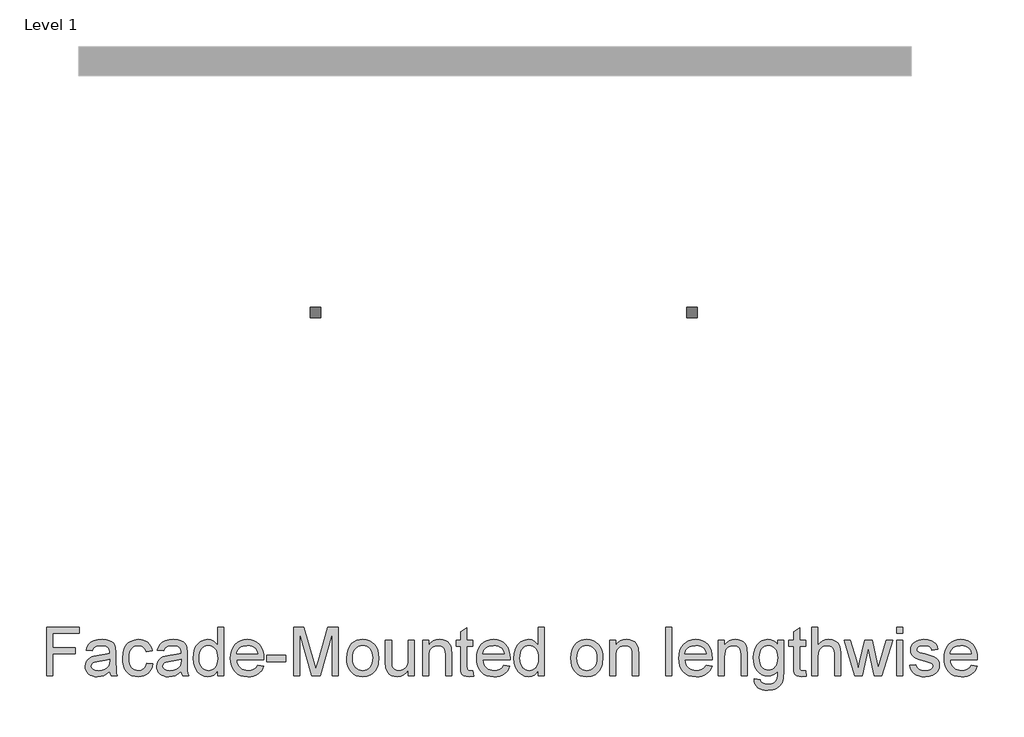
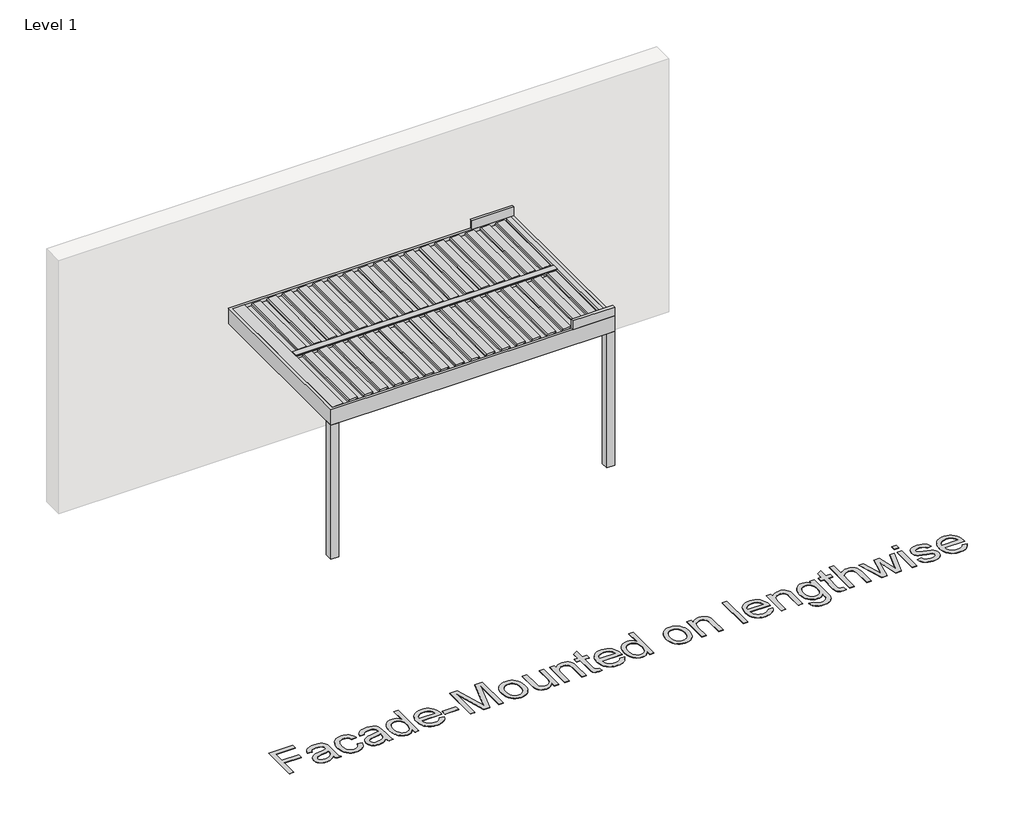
# One storey, part 29 of 47: 2 proxies.
"""IFC4 building model written with IfcOpenShell, lengths in millimetres."""

from ifc_helpers import new_model, si_unit, origin, origin_with_axes, place, context, project, spatial, polyline, outline, extrude, transform, mapped, element, save
from components import generic_models_9d3f019d

model = new_model("IFC4")

# Units and contexts
model_context = context("Model", 3, world=origin())
ifc_project = project(units=[si_unit("LENGTHUNIT", "METRE", prefix="MILLI")], contexts=[model_context])

# Site, building, storey
site = spatial("IfcSite", under=ifc_project)
building = spatial("IfcBuilding", under=site)
storey = spatial("IfcBuildingStorey", under=building, Name="Level 1", Elevation=0.0)

# Proxies
placement = place(None, origin())
generic_models_shape = generic_models_9d3f019d(model_context)
element("IfcBuildingElementProxy", 1, Name="Renson_Algarve_Single Unit With Intermediate Beam : Algarve - Single Unit With Intermediate Beam", ObjectType="Renson_Algarve_Single Unit With Intermediate Beam : Algarve - Single Unit With Intermediate Beam", at=placement, inside=storey, context=model_context, shape_type="MappedRepresentation", body=[
    mapped(generic_models_shape, transform((76532.7944478, 41397.1593685, 0.0), x_axis=(1.0, 0.0, 0.0), y_axis=(0.0, 1.0, 0.0), z_axis=(0.0, 0.0, 1.0))),
])
element("IfcBuildingElementProxy", 2, Name="500mm Arial", ObjectType="500mm Arial", at=placement, inside=storey, context=model_context, shape_type="SweptSolid", body=[
    extrude(outline(polyline([(71810.8195121, 35822.1593685), (71810.8195121, 36324.4409192), (72148.289929, 36324.4409192), (72148.289929, 36261.6557254), (71873.6047059, 36261.6557254), (71873.6047059, 36112.54089), (72109.0491828, 36112.54089), (72109.0491828, 36049.7556962), (71873.6047059, 36049.7556962), (71873.6047059, 35822.1593685), (71810.8195121, 35822.1593685)])), origin_with_axes(), (0.0, 0.0, 1.0), 5.0),
    extrude(outline(polyline([(72462.2158982, 35869.2482639), (72432.2181872, 35843.527181), (72401.331428, 35826.6965797), (72368.8505135, 35817.4075594), (72334.0703366, 35814.3112192), (72306.115137, 35816.1736218), (72281.601167, 35821.7608296), (72260.5284265, 35831.0728426), (72242.8969154, 35844.1096608), (72228.9748812, 35860.0435498), (72219.030571, 35878.0467749), (72213.0639849, 35898.1193363), (72211.0751228, 35920.2612338), (72214.0794925, 35946.288885), (72223.0926014, 35969.9253032), (72236.9954751, 35990.1588129), (72254.6691393, 36005.9777387), (72275.4391436, 36017.9339036), (72298.6310377, 36026.5791305), (72352.9549456, 36036.021435), (72417.1503538, 36045.9542489), (72461.8480162, 36057.6038454), (72462.2158982, 36071.5833612), (72457.8932848, 36099.6037065), (72444.9254444, 36117.9364926), (72431.8503052, 36125.8766123), (72415.9240805, 36131.5481264), (72375.5183747, 36136.0853377), (72338.1170385, 36133.0656396), (72311.9974169, 36124.0065455), (72294.1857969, 36107.2525863), (72281.7084659, 36081.1482931), (72218.9232721, 36088.9964423), (72229.8217762, 36123.3320952), (72246.085226, 36150.3101082), (72269.2311349, 36170.9421567), (72300.777016, 36186.2399164), (72339.3586402, 36195.7128777), (72383.6117786, 36198.8705315), (72426.0561638, 36196.0807597), (72459.7020379, 36187.7114443), (72485.0705672, 36175.1268144), (72502.6829177, 36159.691099), (72514.363171, 36140.6072205), (72521.9354088, 36117.0781013), (72525.0010921, 36062.1410567), (72525.0010921, 35984.0274463), (72528.1894027, 35874.9504348), (72532.910555, 35847.9877502), (72540.6973905, 35822.1593685), (72477.9121967, 35822.1593685), (72467.8567555, 35843.9870335), (72462.2158982, 35869.2482639)]), holes=[polyline([(72462.2158982, 35994.8186515), (72420.0320961, 35984.3646715), (72360.9257222, 35975.5661605), (72306.9083826, 35965.3880919), (72292.8522247, 35958.4289908), (72282.4442299, 35948.8334021), (72276.006295, 35937.3370898), (72273.8603167, 35924.6758178), (72278.5354837, 35906.0058065), (72292.5609848, 35890.7080469), (72315.6302516, 35880.4993215), (72347.4367157, 35877.0964131), (72381.1592319, 35880.8518751), (72410.9576736, 35892.1182612), (72435.1152579, 35908.7189363), (72451.9152024, 35928.4772651), (72459.3648128, 35948.8334021), (72461.8480162, 35977.0376884), (72462.2158982, 35994.8186515)])]), origin_with_axes(), (0.0, 0.0, 1.0), 5.0),
    extrude(outline(polyline([(72846.7752105, 35955.5779054), (72909.5604044, 35947.7297562), (72902.7315948, 35918.1037592), (72892.0553527, 35891.888335), (72877.5316781, 35869.0834834), (72859.160571, 35849.6892044), (72837.7161164, 35834.2113359), (72813.9723993, 35823.1557155), (72787.9294197, 35816.5223433), (72759.5871777, 35814.3112192), (72724.3739729, 35817.3960631), (72692.8012671, 35826.6505945), (72664.8690602, 35842.0748136), (72640.5773522, 35863.6687203), (72620.914826, 35891.0261115), (72606.8701644, 35923.7407844), (72598.4433675, 35961.8127388), (72595.6344351, 36005.2419747), (72600.4322295, 36061.1140528), (72614.8256125, 36109.5365204), (72625.6781314, 36130.4866336), (72639.0445106, 36148.6393108), (72654.92475, 36163.994552), (72673.3188498, 36176.5523572), (72714.3223638, 36193.2909879), (72758.7287863, 36198.8705315), (72786.5843512, 36196.9544795), (72811.7804357, 36191.2063233), (72834.31704, 36181.626063), (72854.1941641, 36168.2136986), (72871.0745827, 36151.2757984), (72884.6210708, 36131.1189308), (72894.8336282, 36107.7430956), (72901.7122551, 36081.1482931), (72838.9270613, 36073.3001438), (72827.5380478, 36100.6920241), (72809.80307, 36120.3277256), (72786.7031464, 36132.1459347), (72759.2192957, 36136.0853377), (72737.885972, 36134.146293), (72718.6449773, 36128.329159), (72701.4963113, 36118.6339355), (72686.4399743, 36105.0606228), (72674.1810732, 36087.2949881), (72665.4247153, 36065.022799), (72660.1709006, 36038.2440554), (72658.419629, 36006.9587574), (72660.1325795, 35975.2021106), (72665.2714311, 35948.1129666), (72673.8361838, 35925.6913254), (72685.8268376, 35907.937187), (72700.5842706, 35894.4443484), (72717.4493608, 35884.8066066), (72736.4221083, 35879.0239615), (72757.502513, 35877.0964131), (72790.0140843, 35881.9095359), (72816.6702006, 35896.3489042), (72827.4499094, 35907.2704009), (72836.0606474, 35920.7824), (72846.7752105, 35955.5779054)])), origin_with_axes(), (0.0, 0.0, 1.0), 5.0),
    extrude(outline(polyline([(73199.9419259, 35869.2482639), (73169.9442149, 35843.527181), (73139.0574557, 35826.6965797), (73106.5765412, 35817.4075594), (73071.7963642, 35814.3112192), (73043.8411647, 35816.1736218), (73019.3271947, 35821.7608296), (72998.2544541, 35831.0728426), (72980.6229431, 35844.1096608), (72966.7009088, 35860.0435498), (72956.7565986, 35878.0467749), (72950.7900125, 35898.1193363), (72948.8011505, 35920.2612338), (72951.8055201, 35946.288885), (72960.818629, 35969.9253032), (72974.7215027, 35990.1588129), (72992.3951669, 36005.9777387), (73013.1651712, 36017.9339036), (73036.3570654, 36026.5791305), (73090.6809733, 36036.021435), (73154.8763815, 36045.9542489), (73199.5740439, 36057.6038454), (73199.9419259, 36071.5833612), (73195.6193124, 36099.6037065), (73182.6514721, 36117.9364926), (73169.5763329, 36125.8766123), (73153.6501082, 36131.5481264), (73113.2444023, 36136.0853377), (73075.8430662, 36133.0656396), (73049.7234445, 36124.0065455), (73031.9118246, 36107.2525863), (73019.4344936, 36081.1482931), (72956.6492997, 36088.9964423), (72967.5478038, 36123.3320952), (72983.8112537, 36150.3101082), (73006.9571626, 36170.9421567), (73038.5030437, 36186.2399164), (73077.0846679, 36195.7128777), (73121.3378062, 36198.8705315), (73163.7821914, 36196.0807597), (73197.4280656, 36187.7114443), (73222.7965948, 36175.1268144), (73240.4089453, 36159.691099), (73252.0891987, 36140.6072205), (73259.6614364, 36117.0781013), (73262.7271197, 36062.1410567), (73262.7271197, 35984.0274463), (73265.9154303, 35874.9504348), (73270.6365826, 35847.9877502), (73278.4234182, 35822.1593685), (73215.6382243, 35822.1593685), (73205.5827831, 35843.9870335), (73199.9419259, 35869.2482639)]), holes=[polyline([(73199.9419259, 35994.8186515), (73157.7581238, 35984.3646715), (73098.6517499, 35975.5661605), (73044.6344102, 35965.3880919), (73030.5782523, 35958.4289908), (73020.1702576, 35948.8334021), (73013.7323227, 35937.3370898), (73011.5863443, 35924.6758178), (73016.2615114, 35906.0058065), (73030.2870124, 35890.7080469), (73053.3562792, 35880.4993215), (73085.1627434, 35877.0964131), (73118.8852596, 35880.8518751), (73148.6837012, 35892.1182612), (73172.8412856, 35908.7189363), (73189.64123, 35928.4772651), (73197.0908404, 35948.8334021), (73199.5740439, 35977.0376884), (73199.9419259, 35994.8186515)])]), origin_with_axes(), (0.0, 0.0, 1.0), 5.0),
    extrude(outline(polyline([(73576.6530889, 35822.1593685), (73576.6530889, 35881.3883697), (73557.8681146, 35852.0421164), (73535.1130803, 35831.0805069), (73508.3879862, 35818.5035411), (73477.6928322, 35814.3112192), (73437.1031854, 35820.3812722), (73399.9471039, 35838.5914309), (73368.4931933, 35867.669437), (73345.0100593, 35906.3430317), (73330.38675, 35953.0487167), (73325.5123136, 36006.2229934), (73330.0035396, 36058.7381482), (73343.4772177, 36106.1642687), (73353.5786441, 36127.2944908), (73365.9180194, 36145.8035537), (73380.4953434, 36161.6914574), (73397.3106163, 36174.9582018), (73435.2791039, 36192.8924491), (73477.4475776, 36198.8705315), (73508.1657242, 36194.5939033), (73535.3276781, 36181.7640188), (73558.3509597, 36162.0976604), (73576.6530889, 36137.311611), (73576.6530889, 36324.4409192), (73639.4382828, 36324.4409192), (73639.4382828, 35822.1593685), (73576.6530889, 35822.1593685)]), holes=[polyline([(73388.2975074, 36006.4682481), (73390.0679395, 35976.0221808), (73395.3792358, 35949.676465), (73404.2313963, 35927.4311007), (73416.624421, 35909.2860877), (73431.4240071, 35895.203105), (73447.4958518, 35885.1438317), (73464.839955, 35879.1082677), (73483.4563168, 35877.0964131), (73502.160817, 35879.0162972), (73519.4014534, 35884.7759497), (73535.1782261, 35894.3753705), (73549.491135, 35907.8145597), (73561.3744898, 35925.2008161), (73569.8626004, 35946.6414386), (73574.9554668, 35972.1364273), (73576.6530889, 36001.6857821), (73574.92481, 36034.0823903), (73569.7399731, 36061.8651452), (73561.0985783, 36085.0340466), (73549.0006256, 36103.5890948), (73534.3734842, 36117.8062011), (73518.1445233, 36127.961277), (73500.3137428, 36134.0543225), (73480.8811429, 36136.0853377), (73461.8968991, 36134.1347967), (73444.5527958, 36128.2831737), (73428.8488332, 36118.5304687), (73414.7850111, 36104.8766818), (73403.1967282, 36087.0229087), (73394.9193833, 36064.6702454), (73389.9529764, 36037.8186918), (73388.2975074, 36006.4682481)])]), origin_with_axes(), (0.0, 0.0, 1.0), 5.0),
    extrude(outline(polyline([(73991.8692342, 35932.0334577), (74053.4281547, 35924.1853085), (74043.9896822, 35899.5295506), (74031.2479361, 35877.8015202), (74015.2029161, 35859.0012174), (73995.8546224, 35843.1286422), (73973.4023244, 35830.5210197), (73948.0452915, 35821.515575), (73919.7835236, 35816.1123082), (73888.6170208, 35814.3112192), (73849.6598504, 35817.4190557), (73814.9486513, 35826.742565), (73784.4834236, 35842.2817472), (73758.2641672, 35864.0366023), (73737.1799304, 35891.4016577), (73722.1197612, 35923.7714412), (73713.0836597, 35961.1459527), (73710.0716259, 36003.5251921), (73713.1143165, 36047.3414706), (73722.2423885, 36085.9614158), (73737.4558419, 36119.3850279), (73758.7546766, 36147.6123069), (73784.904955, 36170.0377802), (73814.6727398, 36186.0559754), (73848.0580309, 36195.6668925), (73885.0608282, 36198.8705315), (73920.8718412, 36195.6745567), (73953.2569531, 36186.0866322), (73982.2161639, 36170.106758), (74007.7494736, 36147.7349342), (74028.5922879, 36119.5689689), (74043.4800124, 36086.2066705), (74052.4126471, 36047.6480389), (74055.390192, 36003.8930741), (74055.02231, 35986.9705023), (73772.8568197, 35986.9705023), (73776.4934865, 35961.9162056), (73783.724667, 35939.9735774), (73794.5503611, 35921.1426178), (73808.9705689, 35905.4233267), (73826.1882127, 35893.030302), (73845.4062148, 35884.1781415), (73866.6245753, 35878.8668452), (73889.8432942, 35877.0964131), (73923.2592421, 35880.3766942), (73951.4022147, 35890.2175376), (73974.2722121, 35907.2320799), (73991.8692342, 35932.0334577)]), holes=[polyline([(73772.8568197, 36049.7556962), (73992.6049982, 36049.7556962), (73984.1130554, 36082.9263894), (73967.4663951, 36106.6547781), (73950.344554, 36119.5306479), (73930.8621366, 36128.7276978), (73909.0191432, 36134.2459277), (73884.8155736, 36136.0853377), (73842.4938157, 36130.2145542), (73824.0805554, 36122.8760748), (73807.4990409, 36112.6022037), (73793.5846709, 36099.8681217), (73783.172844, 36085.1490098), (73776.2635603, 36068.4448679), (73772.8568197, 36049.7556962)])]), origin_with_axes(), (0.0, 0.0, 1.0), 5.0),
    extrude(outline(polyline([(74086.7827889, 35971.2742038), (74086.7827889, 36034.0593977), (74282.9865197, 36034.0593977), (74282.9865197, 35971.2742038), (74086.7827889, 35971.2742038)])), origin_with_axes(), (0.0, 0.0, 1.0), 5.0),
    extrude(outline(polyline([(74361.468012, 35822.1593685), (74361.468012, 36324.4409192), (74469.5026912, 36324.4409192), (74572.2643952, 35970.4158125), (74592.9884143, 35896.4715315), (74615.429216, 35976.5471791), (74716.4741373, 36324.4409192), (74824.5088166, 36324.4409192), (74824.5088166, 35822.1593685), (74761.7236227, 35822.1593685), (74761.7236227, 36261.6557254), (74635.5400984, 35822.1593685), (74550.4367302, 35822.1593685), (74424.2532058, 36261.6557254), (74424.2532058, 35822.1593685), (74361.468012, 35822.1593685)])), origin_with_axes(), (0.0, 0.0, 1.0), 5.0),
    extrude(outline(polyline([(74910.8384581, 36006.5908754), (74914.2337024, 36054.3618853), (74924.4194351, 36095.5263477), (74941.3956563, 36130.0842626), (74965.1623661, 36158.0356301), (74989.0900242, 36175.9008995), (75015.5008857, 36188.6618062), (75044.3949508, 36196.3183502), (75075.7722193, 36198.8705315), (75110.4106084, 36195.7626951), (75141.7303953, 36186.4391858), (75169.7315801, 36170.9000036), (75194.4141627, 36149.1451485), (75214.5595341, 36121.9103846), (75228.949085, 36089.9314757), (75237.5828156, 36053.208422), (75240.4607258, 36011.7412233), (75235.3716915, 35948.312236), (75229.0103987, 35922.2769206), (75220.1045887, 35900.0277241), (75208.7653926, 35880.809722), (75195.1039415, 35863.8679897), (75179.1202352, 35849.2025272), (75160.8142738, 35836.8133346), (75120.0866713, 35819.9367481), (75075.7722193, 35814.3112192), (75040.6279924, 35817.4075594), (75009.0169656, 35826.6965797), (74980.9391387, 35842.1782804), (74956.3945118, 35863.8526613), (74936.4637383, 35891.3518404), (74922.2274715, 35924.3079358), (74913.6857115, 35962.7209475), (74910.8384581, 36006.5908754)]), holes=[polyline([(74973.623652, 36006.7135027), (74975.4400693, 35976.2597713), (74980.8893214, 35949.8910629), (74989.9714081, 35927.6073774), (75002.6863296, 35909.408715), (75018.1527018, 35895.2720829), (75035.4891408, 35885.1744886), (75054.6956466, 35879.115932), (75075.7722193, 35877.0964131), (75096.741493, 35879.1274283), (75115.8713568, 35885.2204738), (75133.1618105, 35895.3755497), (75148.6128543, 35909.592656), (75161.3277758, 35927.9714273), (75170.4098625, 35950.6114985), (75175.8591146, 35977.5128693), (75177.6755319, 36008.67554), (75175.8476183, 36038.1635812), (75170.3638773, 36063.8425109), (75161.224309, 36085.7123291), (75148.4289133, 36103.7730358), (75132.920388, 36117.9096679), (75115.6414305, 36128.0072622), (75096.5920409, 36134.0658188), (75075.7722193, 36136.0853377), (75054.6956466, 36134.073483), (75035.4891408, 36128.037919), (75018.1527018, 36117.9786457), (75002.6863296, 36103.8956631), (74989.9714081, 36085.7506501), (74980.8893214, 36063.5052857), (74975.4400693, 36037.1595699), (74973.623652, 36006.7135027)])]), origin_with_axes(), (0.0, 0.0, 1.0), 5.0),
    extrude(outline(polyline([(75546.5385458, 35822.1593685), (75546.5385458, 35885.557699), (75523.8218326, 35854.3873641), (75497.3649858, 35832.1228392), (75467.1680053, 35818.7641242), (75433.2308913, 35814.3112192), (75402.6507004, 35817.4382162), (75374.185831, 35826.8192071), (75350.3041582, 35840.9213502), (75333.4735569, 35858.211804), (75322.1458571, 35879.2117346), (75314.7728888, 35904.4423081), (75311.0940689, 35962.812918), (75311.0940689, 36191.0223823), (75373.8792627, 36191.0223823), (75373.8792627, 35992.3661049), (75377.68071, 35928.3546377), (75386.8317746, 35907.0021536), (75402.5127447, 35890.7693606), (75423.6812878, 35880.51465), (75449.2950717, 35877.0964131), (75476.3803836, 35880.591292), (75501.718256, 35891.0759289), (75522.6108877, 35907.5846334), (75536.3604772, 35929.1517154), (75543.9940286, 35958.6895739), (75546.5385458, 35999.1106081), (75546.5385458, 36191.0223823), (75609.3237396, 36191.0223823), (75609.3237396, 35822.1593685), (75546.5385458, 35822.1593685)])), origin_with_axes(), (0.0, 0.0, 1.0), 5.0),
    extrude(outline(polyline([(75695.6533812, 35822.1593685), (75695.6533812, 36191.0223823), (75758.438575, 36191.0223823), (75758.438575, 36139.518903), (75780.2509116, 36165.4852405), (75806.4471754, 36184.0326244), (75837.0273662, 36195.1610547), (75871.9914842, 36198.8705315), (75902.939557, 36195.8814903), (75931.2817991, 36186.9143667), (75954.9182173, 36173.088135), (75971.7488185, 36155.5217698), (75983.1684888, 36134.2612561), (75990.572114, 36109.3525794), (75993.8830519, 36048.6520502), (75993.8830519, 35822.1593685), (75931.0978581, 35822.1593685), (75931.0978581, 36040.1907643), (75929.2891049, 36072.6563504), (75923.8628455, 36095.7409455), (75913.8533895, 36112.2803069), (75898.2950468, 36125.1101915), (75878.352777, 36133.3415511), (75855.1915397, 36136.0853377), (75836.1268218, 36134.5448318), (75818.4186686, 36129.9233143), (75802.0670804, 36122.220785), (75787.072057, 36111.437244), (75774.5449086, 36096.346418), (75765.5969455, 36075.7220336), (75760.2281676, 36049.5640909), (75758.438575, 36017.8725899), (75758.438575, 35822.1593685), (75695.6533812, 35822.1593685)])), origin_with_axes(), (0.0, 0.0, 1.0), 5.0),
    extrude(outline(polyline([(76213.6312304, 35874.5212391), (76221.4793796, 35820.3199585), (76174.5131115, 35814.3112192), (76144.3774448, 35816.91705), (76121.9059862, 35824.7345424), (76106.0257468, 35836.7826778), (76095.6637372, 35852.0804374), (76089.9615663, 35878.3533432), (76088.0608427, 35923.3269171), (76088.0608427, 36128.2371885), (76040.9719473, 36128.2371885), (76040.9719473, 36191.0223823), (76088.0608427, 36191.0223823), (76088.0608427, 36280.6629618), (76150.8460365, 36317.5737886), (76150.8460365, 36191.0223823), (76213.6312304, 36191.0223823), (76213.6312304, 36128.2371885), (76150.8460365, 36128.2371885), (76150.8460365, 35925.1663271), (76154.1569745, 35892.7927115), (76164.886866, 35881.327056), (76186.2853354, 35877.0964131), (76213.6312304, 35874.5212391)])), origin_with_axes(), (0.0, 0.0, 1.0), 5.0),
    extrude(outline(polyline([(76534.6695848, 35932.0334577), (76596.2285053, 35924.1853085), (76586.7900329, 35899.5295506), (76574.0482867, 35877.8015202), (76558.0032668, 35859.0012174), (76538.6549731, 35843.1286422), (76516.2026751, 35830.5210197), (76490.8456421, 35821.515575), (76462.5838743, 35816.1123082), (76431.4173715, 35814.3112192), (76392.4602011, 35817.4190557), (76357.749002, 35826.742565), (76327.2837743, 35842.2817472), (76301.0645179, 35864.0366023), (76279.980281, 35891.4016577), (76264.9201119, 35923.7714412), (76255.8840104, 35961.1459527), (76252.8719765, 36003.5251921), (76255.9146672, 36047.3414706), (76265.0427392, 36085.9614158), (76280.2561925, 36119.3850279), (76301.5550272, 36147.6123069), (76327.7053057, 36170.0377802), (76357.4730905, 36186.0559754), (76390.8583815, 36195.6668925), (76427.8611789, 36198.8705315), (76463.6721919, 36195.6745567), (76496.0573037, 36186.0866322), (76525.0165146, 36170.106758), (76550.5498243, 36147.7349342), (76571.3926386, 36119.5689689), (76586.2803631, 36086.2066705), (76595.2129978, 36047.6480389), (76598.1905427, 36003.8930741), (76597.8226607, 35986.9705023), (76315.6571704, 35986.9705023), (76319.2938372, 35961.9162056), (76326.5250176, 35939.9735774), (76337.3507118, 35921.1426178), (76351.7709196, 35905.4233267), (76368.9885633, 35893.030302), (76388.2065655, 35884.1781415), (76409.424926, 35878.8668452), (76432.6436448, 35877.0964131), (76466.0595927, 35880.3766942), (76494.2025654, 35890.2175376), (76517.0725627, 35907.2320799), (76534.6695848, 35932.0334577)]), holes=[polyline([(76315.6571704, 36049.7556962), (76535.4053488, 36049.7556962), (76526.9134061, 36082.9263894), (76510.2667458, 36106.6547781), (76493.1449046, 36119.5306479), (76473.6624873, 36128.7276978), (76451.8194938, 36134.2459277), (76427.6159242, 36136.0853377), (76385.2941664, 36130.2145542), (76366.8809061, 36122.8760748), (76350.2993916, 36112.6022037), (76336.3850215, 36099.8681217), (76325.9731946, 36085.1490098), (76319.0639109, 36068.4448679), (76315.6571704, 36049.7556962)])]), origin_with_axes(), (0.0, 0.0, 1.0), 5.0),
    extrude(outline(polyline([(76888.5720642, 35822.1593685), (76888.5720642, 35881.3883697), (76869.7870898, 35852.0421164), (76847.0320556, 35831.0805069), (76820.3069615, 35818.5035411), (76789.6118075, 35814.3112192), (76749.0221607, 35820.3812722), (76711.8660792, 35838.5914309), (76680.4121686, 35867.669437), (76656.9290346, 35906.3430317), (76642.3057252, 35953.0487167), (76637.4312888, 36006.2229934), (76641.9225148, 36058.7381482), (76655.3961929, 36106.1642687), (76665.4976194, 36127.2944908), (76677.8369946, 36145.8035537), (76692.4143187, 36161.6914574), (76709.2295915, 36174.9582018), (76747.1980791, 36192.8924491), (76789.3665528, 36198.8705315), (76820.0846994, 36194.5939033), (76847.2466534, 36181.7640188), (76870.2699349, 36162.0976604), (76888.5720642, 36137.311611), (76888.5720642, 36324.4409192), (76951.357258, 36324.4409192), (76951.357258, 35822.1593685), (76888.5720642, 35822.1593685)]), holes=[polyline([(76700.2164827, 36006.4682481), (76701.9869148, 35976.0221808), (76707.2982111, 35949.676465), (76716.1503716, 35927.4311007), (76728.5433963, 35909.2860877), (76743.3429824, 35895.203105), (76759.414827, 35885.1438317), (76776.7589303, 35879.1082677), (76795.3752921, 35877.0964131), (76814.0797923, 35879.0162972), (76831.3204287, 35884.7759497), (76847.0972013, 35894.3753705), (76861.4101102, 35907.8145597), (76873.2934651, 35925.2008161), (76881.7815757, 35946.6414386), (76886.8744421, 35972.1364273), (76888.5720642, 36001.6857821), (76886.8437852, 36034.0823903), (76881.6589484, 36061.8651452), (76873.0175536, 36085.0340466), (76860.9196009, 36103.5890948), (76846.2924595, 36117.8062011), (76830.0634985, 36127.961277), (76812.2327181, 36134.0543225), (76792.8001181, 36136.0853377), (76773.8158743, 36134.1347967), (76756.4717711, 36128.2831737), (76740.7678084, 36118.5304687), (76726.7039863, 36104.8766818), (76715.1157035, 36087.0229087), (76706.8383586, 36064.6702454), (76701.8719516, 36037.8186918), (76700.2164827, 36006.4682481)])]), origin_with_axes(), (0.0, 0.0, 1.0), 5.0),
    extrude(outline(polyline([(77226.0424811, 36006.5908754), (77229.4377253, 36054.3618853), (77239.6234581, 36095.5263477), (77256.5996793, 36130.0842626), (77280.366389, 36158.0356301), (77304.2940471, 36175.9008995), (77330.7049087, 36188.6618062), (77359.5989738, 36196.3183502), (77390.9762423, 36198.8705315), (77425.6146314, 36195.7626951), (77456.9344183, 36186.4391858), (77484.9356031, 36170.9000036), (77509.6181857, 36149.1451485), (77529.763557, 36121.9103846), (77544.153108, 36089.9314757), (77552.7868386, 36053.208422), (77555.6647488, 36011.7412233), (77550.5757145, 35948.312236), (77544.2144217, 35922.2769206), (77535.3086117, 35900.0277241), (77523.9694156, 35880.809722), (77510.3079644, 35863.8679897), (77494.3242582, 35849.2025272), (77476.0182968, 35836.8133346), (77435.2906943, 35819.9367481), (77390.9762423, 35814.3112192), (77355.8320154, 35817.4075594), (77324.2209886, 35826.6965797), (77296.1431617, 35842.1782804), (77271.5985348, 35863.8526613), (77251.6677613, 35891.3518404), (77237.4314945, 35924.3079358), (77228.8897345, 35962.7209475), (77226.0424811, 36006.5908754)]), holes=[polyline([(77288.8276749, 36006.7135027), (77290.6440923, 35976.2597713), (77296.0933443, 35949.8910629), (77305.1754311, 35927.6073774), (77317.8903526, 35909.408715), (77333.3567248, 35895.2720829), (77350.6931638, 35885.1744886), (77369.8996696, 35879.115932), (77390.9762423, 35877.0964131), (77411.945516, 35879.1274283), (77431.0753797, 35885.2204738), (77448.3658335, 35895.3755497), (77463.8168773, 35909.592656), (77476.5317988, 35927.9714273), (77485.6138855, 35950.6114985), (77491.0631376, 35977.5128693), (77492.8795549, 36008.67554), (77491.0516413, 36038.1635812), (77485.5679003, 36063.8425109), (77476.428332, 36085.7123291), (77463.6329363, 36103.7730358), (77448.124411, 36117.9096679), (77430.8454535, 36128.0072622), (77411.7960639, 36134.0658188), (77390.9762423, 36136.0853377), (77369.8996696, 36134.073483), (77350.6931638, 36128.037919), (77333.3567248, 36117.9786457), (77317.8903526, 36103.8956631), (77305.1754311, 36085.7506501), (77296.0933443, 36063.5052857), (77290.6440923, 36037.1595699), (77288.8276749, 36006.7135027)])]), origin_with_axes(), (0.0, 0.0, 1.0), 5.0),
    extrude(outline(polyline([(77626.2980918, 35822.1593685), (77626.2980918, 36191.0223823), (77689.0832857, 36191.0223823), (77689.0832857, 36139.518903), (77710.8956223, 36165.4852405), (77737.0918861, 36184.0326244), (77767.6720769, 36195.1610547), (77802.6361949, 36198.8705315), (77833.5842677, 36195.8814903), (77861.9265098, 36186.9143667), (77885.5629279, 36173.088135), (77902.3935292, 36155.5217698), (77913.8131995, 36134.2612561), (77921.2168246, 36109.3525794), (77924.5277626, 36048.6520502), (77924.5277626, 35822.1593685), (77861.7425688, 35822.1593685), (77861.7425688, 36040.1907643), (77859.9338156, 36072.6563504), (77854.5075562, 36095.7409455), (77844.4981002, 36112.2803069), (77828.9397575, 36125.1101915), (77808.9974877, 36133.3415511), (77785.8362504, 36136.0853377), (77766.7715324, 36134.5448318), (77749.0633793, 36129.9233143), (77732.7117911, 36122.220785), (77717.7167676, 36111.437244), (77705.1896193, 36096.346418), (77696.2416562, 36075.7220336), (77690.8728783, 36049.5640909), (77689.0832857, 36017.8725899), (77689.0832857, 35822.1593685), (77626.2980918, 35822.1593685)])), origin_with_axes(), (0.0, 0.0, 1.0), 5.0),
    extrude(outline(polyline([(78207.0611349, 35822.1593685), (78207.0611349, 36324.4409192), (78269.8463287, 36324.4409192), (78269.8463287, 35822.1593685), (78207.0611349, 35822.1593685)])), origin_with_axes(), (0.0, 0.0, 1.0), 5.0),
    extrude(outline(polyline([(78622.2772801, 35932.0334577), (78683.8362006, 35924.1853085), (78674.3977282, 35899.5295506), (78661.655982, 35877.8015202), (78645.6109621, 35859.0012174), (78626.2626684, 35843.1286422), (78603.8103704, 35830.5210197), (78578.4533374, 35821.515575), (78550.1915696, 35816.1123082), (78519.0250668, 35814.3112192), (78480.0678964, 35817.4190557), (78445.3566973, 35826.742565), (78414.8914695, 35842.2817472), (78388.6722132, 35864.0366023), (78367.5879763, 35891.4016577), (78352.5278072, 35923.7714412), (78343.4917056, 35961.1459527), (78340.4796718, 36003.5251921), (78343.5223625, 36047.3414706), (78352.6504345, 36085.9614158), (78367.8638878, 36119.3850279), (78389.1627225, 36147.6123069), (78415.313001, 36170.0377802), (78445.0807858, 36186.0559754), (78478.4660768, 36195.6668925), (78515.4688742, 36198.8705315), (78551.2798872, 36195.6745567), (78583.664999, 36186.0866322), (78612.6242099, 36170.106758), (78638.1575196, 36147.7349342), (78659.0003339, 36119.5689689), (78673.8880584, 36086.2066705), (78682.8206931, 36047.6480389), (78685.798238, 36003.8930741), (78685.430356, 35986.9705023), (78403.2648657, 35986.9705023), (78406.9015325, 35961.9162056), (78414.1327129, 35939.9735774), (78424.9584071, 35921.1426178), (78439.3786149, 35905.4233267), (78456.5962586, 35893.030302), (78475.8142608, 35884.1781415), (78497.0326213, 35878.8668452), (78520.2513401, 35877.0964131), (78553.667288, 35880.3766942), (78581.8102606, 35890.2175376), (78604.680258, 35907.2320799), (78622.2772801, 35932.0334577)]), holes=[polyline([(78403.2648657, 36049.7556962), (78623.0130441, 36049.7556962), (78614.5211014, 36082.9263894), (78597.8744411, 36106.6547781), (78580.7525999, 36119.5306479), (78561.2701826, 36128.7276978), (78539.4271891, 36134.2459277), (78515.2236195, 36136.0853377), (78472.9018617, 36130.2145542), (78454.4886014, 36122.8760748), (78437.9070869, 36112.6022037), (78423.9927168, 36099.8681217), (78413.5808899, 36085.1490098), (78406.6716062, 36068.4448679), (78403.2648657, 36049.7556962)])]), origin_with_axes(), (0.0, 0.0, 1.0), 5.0),
    extrude(outline(polyline([(78748.5834318, 35822.1593685), (78748.5834318, 36191.0223823), (78811.3686256, 36191.0223823), (78811.3686256, 36139.518903), (78833.1809623, 36165.4852405), (78859.377226, 36184.0326244), (78889.9574169, 36195.1610547), (78924.9215348, 36198.8705315), (78955.8696077, 36195.8814903), (78984.2118497, 36186.9143667), (79007.8482679, 36173.088135), (79024.6788692, 36155.5217698), (79036.0985394, 36134.2612561), (79043.5021646, 36109.3525794), (79046.8131026, 36048.6520502), (79046.8131026, 35822.1593685), (78984.0279087, 35822.1593685), (78984.0279087, 36040.1907643), (78982.2191556, 36072.6563504), (78976.7928961, 36095.7409455), (78966.7834402, 36112.2803069), (78951.2250975, 36125.1101915), (78931.2828277, 36133.3415511), (78908.1215904, 36136.0853377), (78889.0568724, 36134.5448318), (78871.3487193, 36129.9233143), (78854.997131, 36122.220785), (78840.0021076, 36111.437244), (78827.4749592, 36096.346418), (78818.5269961, 36075.7220336), (78813.1582183, 36049.5640909), (78811.3686256, 36017.8725899), (78811.3686256, 35822.1593685), (78748.5834318, 35822.1593685)])), origin_with_axes(), (0.0, 0.0, 1.0), 5.0),
    extrude(outline(polyline([(79117.4464456, 35790.7667715), (79180.2316395, 35782.9186223), (79187.1600837, 35763.2982492), (79200.5877765, 35749.8092428), (79226.9833097, 35739.3246059), (79261.5335604, 35735.8297269), (79298.3830736, 35739.7844584), (79325.7902822, 35751.6486527), (79344.7975186, 35770.6558891), (79356.4471152, 35796.0397468), (79359.8500236, 35823.0484166), (79360.7390718, 35869.2482639), (79339.8464401, 35848.6468721), (79316.5319187, 35833.9315923), (79290.7955074, 35825.1024244), (79262.6372064, 35822.1593685), (79228.2134151, 35825.5852695), (79197.9053037, 35835.8629728), (79171.712872, 35852.9924782), (79149.6361202, 35876.9737858), (79132.1195723, 35905.7452235), (79119.6077523, 35937.2451193), (79112.1006604, 35971.4734733), (79109.5982964, 36008.4302854), (79114.0895224, 36059.1213586), (79127.5632005, 36105.7350731), (79149.5441497, 36145.2364023), (79163.5466581, 36161.1817875), (79179.5571891, 36174.5903198), (79197.3189917, 36185.2129125), (79216.5753149, 36192.8004786), (79237.3261587, 36197.3530183), (79259.5715231, 36198.8705315), (79288.9331048, 36195.4369662), (79315.5815569, 36185.1362704), (79339.5168792, 36167.9684439), (79360.7390718, 36143.9334869), (79360.7390718, 36191.0223823), (79423.5242656, 36191.0223823), (79423.5242656, 35872.5592018), (79419.232309, 35799.028788), (79413.8673632, 35771.6790609), (79406.3564392, 35750.6063204), (79384.1762205, 35718.4932879), (79351.9712176, 35693.8911795), (79332.2856987, 35684.7707717), (79310.4465373, 35678.2561947), (79260.3072871, 35673.0445331), (79229.5469873, 35674.880111), (79201.8906919, 35680.3868446), (79177.3384009, 35689.5647339), (79155.8901141, 35702.413779), (79138.5651714, 35718.9493083), (79126.3829124, 35739.1866501), (79119.3433372, 35763.1258046), (79117.4464456, 35790.7667715)]), holes=[polyline([(79172.3834902, 36012.722242), (79174.0581197, 35981.6783665), (79179.0820082, 35955.1333813), (79187.4551557, 35933.0872863), (79199.1775622, 35915.5400816), (79213.4291574, 35902.1545419), (79229.3898711, 35892.5934421), (79247.0597032, 35886.8567823), (79266.4386537, 35884.9445623), (79285.625999, 35886.845286), (79303.2115248, 35892.5474569), (79319.195231, 35902.0510751), (79333.5771178, 35915.3561406), (79345.4604727, 35932.7309006), (79353.9485833, 35954.4436026), (79359.0414496, 35980.4942464), (79360.7390718, 36010.882832), (79358.9916323, 36040.0029912), (79353.7493139, 36065.3140389), (79345.0121165, 36086.8159751), (79332.7800401, 36104.5087998), (79318.087753, 36118.3235351), (79301.969923, 36128.1912032), (79284.4265504, 36134.1118041), (79265.457635, 36136.0853377), (79246.8067843, 36134.1424609), (79229.6044689, 36128.3138305), (79213.8506889, 36118.5994466), (79199.5454442, 36104.9993091), (79187.6620894, 36087.5747317), (79179.1739787, 36066.387028), (79174.0811124, 36041.4361981), (79172.3834902, 36012.722242)])]), origin_with_axes(), (0.0, 0.0, 1.0), 5.0),
    extrude(outline(polyline([(79651.1205933, 35874.5212391), (79658.9687425, 35820.3199585), (79612.0024745, 35814.3112192), (79581.8668077, 35816.91705), (79559.3953492, 35824.7345424), (79543.5151097, 35836.7826778), (79533.1531002, 35852.0804374), (79527.4509293, 35878.3533432), (79525.5502056, 35923.3269171), (79525.5502056, 36128.2371885), (79478.4613102, 36128.2371885), (79478.4613102, 36191.0223823), (79525.5502056, 36191.0223823), (79525.5502056, 36280.6629618), (79588.3353995, 36317.5737886), (79588.3353995, 36191.0223823), (79651.1205933, 36191.0223823), (79651.1205933, 36128.2371885), (79588.3353995, 36128.2371885), (79588.3353995, 35925.1663271), (79591.6463374, 35892.7927115), (79602.3762289, 35881.327056), (79623.7746983, 35877.0964131), (79651.1205933, 35874.5212391)])), origin_with_axes(), (0.0, 0.0, 1.0), 5.0),
    extrude(outline(polyline([(79713.9057871, 35822.1593685), (79713.9057871, 36324.4409192), (79776.690981, 36324.4409192), (79776.690981, 36139.7641576), (79799.7525836, 36165.6231962), (79825.6499432, 36184.0939381), (79854.3830598, 36195.1763832), (79885.9519336, 36198.8705315), (79923.8744359, 36194.839158), (79956.4626493, 36182.7450374), (79982.1224185, 36163.5385316), (79999.2595881, 36138.1700023), (80008.9164904, 36103.3131833), (80012.1354579, 36055.6418081), (80012.1354579, 35822.1593685), (79949.3502641, 35822.1593685), (79949.3502641, 36049.1425595), (79944.3532003, 36088.4446193), (79938.1068706, 36103.451139), (79929.362009, 36115.3613186), (79918.3255491, 36124.428077), (79905.2044246, 36130.9043329), (79872.7081817, 36136.0853377), (79846.1746928, 36132.5904587), (79821.2660161, 36122.1058219), (79800.6339675, 36105.6431026), (79786.9303632, 36084.2139764), (79779.2508265, 36055.7337786), (79776.690981, 36018.1178446), (79776.690981, 35822.1593685), (79713.9057871, 35822.1593685)])), origin_with_axes(), (0.0, 0.0, 1.0), 5.0),
    extrude(outline(polyline([(80159.656138, 35822.1593685), (80047.4521294, 36191.0223823), (80112.6898699, 36191.0223823), (80176.3334551, 35975.8114151), (80195.3406915, 35898.9240781), (80210.9143626, 35972.9909865), (80261.5594506, 36191.0223823), (80336.362123, 36191.0223823), (80386.7619563, 35973.6041232), (80400.6188448, 35906.5269727), (80420.4844725, 35977.2829431), (80484.250685, 36191.0223823), (80549.7336802, 36191.0223823), (80436.6712803, 35822.1593685), (80360.764962, 35822.1593685), (80312.5724206, 36038.4739816), (80298.5929048, 36105.9190141), (80236.4208476, 35822.1593685), (80159.656138, 35822.1593685)])), origin_with_axes(), (0.0, 0.0, 1.0), 5.0),
    extrude(outline(polyline([(80592.8985009, 35822.1593685), (80592.8985009, 36191.0223823), (80655.6836948, 36191.0223823), (80655.6836948, 35822.1593685), (80592.8985009, 35822.1593685)])), origin_with_axes(), (0.0, 0.0, 1.0), 5.0),
    extrude(outline(polyline([(80592.8985009, 36261.6557254), (80592.8985009, 36324.4409192), (80655.6836948, 36324.4409192), (80655.6836948, 36261.6557254), (80592.8985009, 36261.6557254)])), origin_with_axes(), (0.0, 0.0, 1.0), 5.0),
    extrude(outline(polyline([(80726.3170379, 35932.0334577), (80789.1022317, 35939.8816069), (80799.0043887, 35913.0262213), (80818.1649093, 35893.2832209), (80846.7064208, 35881.143115), (80884.7515505, 35877.0964131), (80922.3368276, 35880.8058899), (80948.7630176, 35891.9343202), (80964.3980024, 35908.0598143), (80969.609664, 35926.7604824), (80964.3673456, 35942.7633492), (80948.6403903, 35954.9647687), (80884.0157865, 35972.8683592), (80826.7181657, 35989.4383774), (80789.4701137, 36003.5865058), (80765.5424556, 36019.0222211), (80748.2060166, 36039.4550003), (80737.6753945, 36063.5819278), (80734.1651871, 36090.1000883), (80736.9856157, 36114.4262852), (80745.4469016, 36136.8824153), (80758.7826239, 36156.5794305), (80776.2263619, 36172.6282825), (80793.5628009, 36182.729709), (80816.1415584, 36191.2063233), (80842.2458516, 36196.9544795), (80870.158898, 36198.8705315), (80911.0244563, 36195.7895198), (80946.5557256, 36186.5464847), (80975.1278939, 36172.0458027), (80995.116149, 36153.1918505), (81008.3599008, 36128.589742), (81016.6985594, 36096.8445915), (80953.9133655, 36088.9964423), (80945.9885742, 36108.7547711), (80930.3076042, 36123.6386635), (80906.7171713, 36132.9736691), (80875.0639913, 36136.0853377), (80839.0115557, 36133.1116249), (80814.9765987, 36124.1904865), (80801.4569354, 36111.3146167), (80796.9503809, 36096.4767095), (80798.8204478, 36086.8198072), (80804.4306482, 36078.2052371), (80814.0262369, 36070.510372), (80827.8524685, 36064.3483486), (80881.9311218, 36050.9819695), (80974.0855616, 36021.4287825), (80998.427087, 36007.2959825), (81016.8825004, 35987.951521), (81028.5167685, 35963.3340841), (81032.3948579, 35933.3823583), (81027.8423182, 35902.4189571), (81014.1846991, 35873.2949658), (80991.9431668, 35848.2943185), (80961.6388874, 35829.7009494), (80925.0346289, 35818.1586518), (80883.8931591, 35814.3112192), (80850.101665, 35816.1659576), (80820.5867991, 35821.7301728), (80795.3485614, 35831.0038648), (80774.3869519, 35843.9870335), (80757.2651107, 35860.6183654), (80743.546178, 35880.8365467), (80733.2301537, 35904.6415775), (80726.3170379, 35932.0334577)])), origin_with_axes(), (0.0, 0.0, 1.0), 5.0),
    extrude(outline(polyline([(81361.2813615, 35932.0334577), (81422.8402821, 35924.1853085), (81413.4018096, 35899.5295506), (81400.6600634, 35877.8015202), (81384.6150435, 35859.0012174), (81365.2667498, 35843.1286422), (81342.8144518, 35830.5210197), (81317.4574189, 35821.515575), (81289.195651, 35816.1123082), (81258.0291482, 35814.3112192), (81219.0719778, 35817.4190557), (81184.3607787, 35826.742565), (81153.895551, 35842.2817472), (81127.6762946, 35864.0366023), (81106.5920578, 35891.4016577), (81091.5318886, 35923.7714412), (81082.4957871, 35961.1459527), (81079.4837532, 36003.5251921), (81082.5264439, 36047.3414706), (81091.6545159, 36085.9614158), (81106.8679693, 36119.3850279), (81128.1668039, 36147.6123069), (81154.3170824, 36170.0377802), (81184.0848672, 36186.0559754), (81217.4701583, 36195.6668925), (81254.4729556, 36198.8705315), (81290.2839686, 36195.6745567), (81322.6690805, 36186.0866322), (81351.6282913, 36170.106758), (81377.161601, 36147.7349342), (81398.0044153, 36119.5689689), (81412.8921398, 36086.2066705), (81421.8247745, 36047.6480389), (81424.8023194, 36003.8930741), (81424.4344374, 35986.9705023), (81142.2689471, 35986.9705023), (81145.9056139, 35961.9162056), (81153.1367944, 35939.9735774), (81163.9624885, 35921.1426178), (81178.3826963, 35905.4233267), (81195.6003401, 35893.030302), (81214.8183422, 35884.1781415), (81236.0367027, 35878.8668452), (81259.2554215, 35877.0964131), (81292.6713694, 35880.3766942), (81320.8143421, 35890.2175376), (81343.6843394, 35907.2320799), (81361.2813615, 35932.0334577)]), holes=[polyline([(81142.2689471, 36049.7556962), (81362.0171255, 36049.7556962), (81353.5251828, 36082.9263894), (81336.8785225, 36106.6547781), (81319.7566813, 36119.5306479), (81300.274264, 36128.7276978), (81278.4312705, 36134.2459277), (81254.2277009, 36136.0853377), (81211.9059431, 36130.2145542), (81193.4926828, 36122.8760748), (81176.9111683, 36112.6022037), (81162.9967982, 36099.8681217), (81152.5849714, 36085.1490098), (81145.6756876, 36068.4448679), (81142.2689471, 36049.7556962)])]), origin_with_axes(), (0.0, 0.0, 1.0), 5.0),
])

save(model, "model.ifc")
